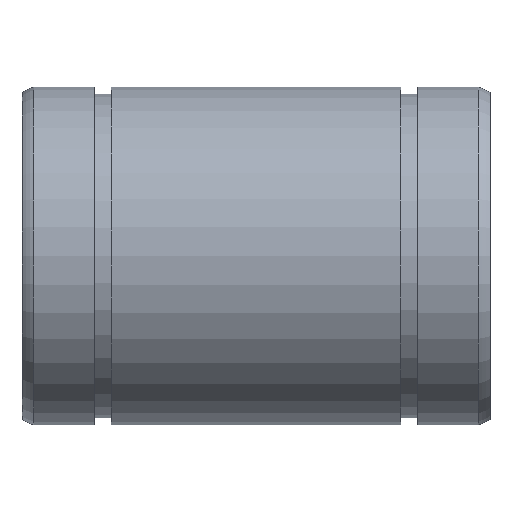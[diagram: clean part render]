
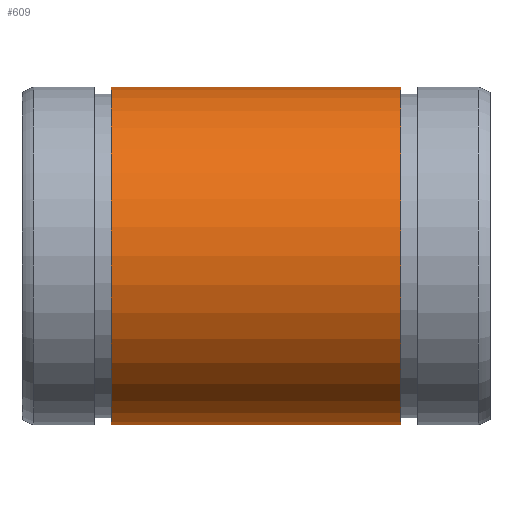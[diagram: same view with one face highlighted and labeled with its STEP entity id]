
A CAD part, top view. The second image highlights one B-rep face of the part: STEP entity #609.
In plain terms, the highlighted cylindrical face has radius 13 mm (diameter 26 mm), a partial arc.
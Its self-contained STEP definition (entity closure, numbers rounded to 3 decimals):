
#174=CARTESIAN_POINT('',(6.85,0.75,-12.978));
#175=VERTEX_POINT('',#174);
#182=CARTESIAN_POINT('',(29.15,0.75,-12.978));
#183=VERTEX_POINT('',#182);
#184=CARTESIAN_POINT('',(29.15,0.75,-12.978));
#185=DIRECTION('',(-1.0,0.0,0.0));
#186=VECTOR('',#185,22.3);
#187=LINE('',#184,#186);
#188=EDGE_CURVE('',#183,#175,#187,.T.);
#230=CARTESIAN_POINT('',(29.15,-0.75,-12.978));
#231=VERTEX_POINT('',#230);
#238=CARTESIAN_POINT('',(6.85,-0.75,-12.978));
#239=VERTEX_POINT('',#238);
#240=CARTESIAN_POINT('',(6.85,-0.75,-12.978));
#241=DIRECTION('',(1.0,0.0,0.0));
#242=VECTOR('',#241,22.3);
#243=LINE('',#240,#242);
#244=EDGE_CURVE('',#239,#231,#243,.T.);
#582=CARTESIAN_POINT('',(29.15,0.0,0.));
#583=DIRECTION('',(-1.0,0.0,0.0));
#584=DIRECTION('',(0.0,0.0,1.0));
#585=AXIS2_PLACEMENT_3D('',#582,#583,#584);
#586=CIRCLE('',#585,13.);
#587=EDGE_CURVE('',#231,#183,#586,.T.);
#592=CARTESIAN_POINT('',(18.,0.0,0.));
#593=DIRECTION('',(-1.0,0.0,0.));
#594=DIRECTION('',(0.0,0.0,1.0));
#595=AXIS2_PLACEMENT_3D('',#592,#593,#594);
#596=CYLINDRICAL_SURFACE('',#595,13.);
#597=ORIENTED_EDGE('',*,*,#244,.T.);
#598=ORIENTED_EDGE('',*,*,#587,.T.);
#599=ORIENTED_EDGE('',*,*,#188,.T.);
#600=CARTESIAN_POINT('',(6.85,0.0,0.));
#601=DIRECTION('',(-1.0,0.0,0.0));
#602=DIRECTION('',(0.0,0.0,1.0));
#603=AXIS2_PLACEMENT_3D('',#600,#601,#602);
#604=CIRCLE('',#603,13.);
#605=EDGE_CURVE('',#239,#175,#604,.T.);
#606=ORIENTED_EDGE('',*,*,#605,.F.);
#607=EDGE_LOOP('',(#597,#598,#599,#606));
#608=FACE_OUTER_BOUND('',#607,.T.);
#609=ADVANCED_FACE('',(#608),#596,.T.);
